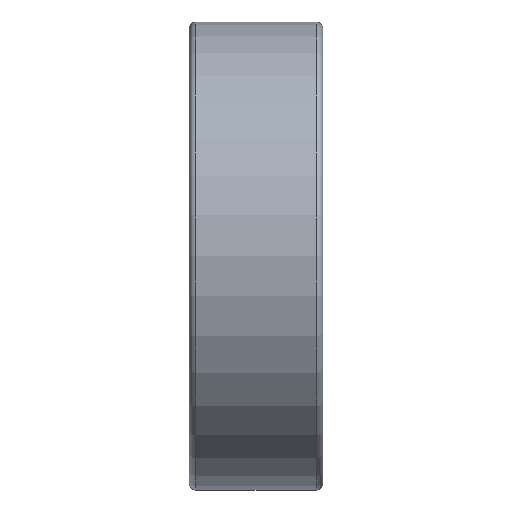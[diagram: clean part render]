
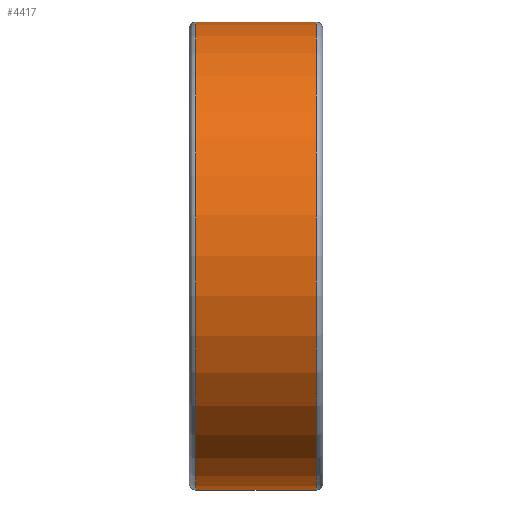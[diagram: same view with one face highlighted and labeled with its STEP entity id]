
A CAD part, top view. The second image highlights one B-rep face of the part: STEP entity #4417.
In plain terms, the highlighted cylindrical face has radius 21 mm (diameter 42 mm), a partial arc.
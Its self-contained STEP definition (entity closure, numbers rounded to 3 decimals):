
#159 = AXIS2_PLACEMENT_3D ( 'NONE', #1102, #1105, #1099 ) ;
#654 = CARTESIAN_POINT ( 'NONE',  ( -11.4, -21., 0. ) ) ;
#664 = CARTESIAN_POINT ( 'NONE',  ( -11.4, 21., 0. ) ) ;
#671 = CARTESIAN_POINT ( 'NONE',  ( -0.6, 21., 0. ) ) ;
#672 = CARTESIAN_POINT ( 'NONE',  ( -0.6, -21., 0. ) ) ;
#894 = CIRCLE ( 'NONE', #904, 21. ) ;
#900 = VECTOR ( 'NONE', #2618, 1000. ) ;
#902 = VECTOR ( 'NONE', #2627, 1000. ) ;
#903 = CIRCLE ( 'NONE', #906, 21. ) ;
#904 = AXIS2_PLACEMENT_3D ( 'NONE', #2620, #2621, #2622 ) ;
#906 = AXIS2_PLACEMENT_3D ( 'NONE', #2624, #2625, #2626 ) ;
#1099 = DIRECTION ( 'NONE',  ( 0., 1., 0. ) ) ;
#1100 = CYLINDRICAL_SURFACE ( 'NONE', #159, 21. ) ;
#1102 = CARTESIAN_POINT ( 'NONE',  ( 0., 0., 0. ) ) ;
#1104 = FACE_OUTER_BOUND ( 'NONE', #5566, .T. ) ;
#1105 = DIRECTION ( 'NONE',  ( 1., 0., 0. ) ) ;
#2609 = LINE ( 'NONE', #2610, #900 ) ;
#2610 = CARTESIAN_POINT ( 'NONE',  ( 0., -21., 0. ) ) ;
#2618 = DIRECTION ( 'NONE',  ( 1., 0., 0. ) ) ;
#2619 = CARTESIAN_POINT ( 'NONE',  ( 0., 21., 0. ) ) ;
#2620 = CARTESIAN_POINT ( 'NONE',  ( -11.4, 0., 0. ) ) ;
#2621 = DIRECTION ( 'NONE',  ( 1., 0., 0. ) ) ;
#2622 = DIRECTION ( 'NONE',  ( 0., 1., 0. ) ) ;
#2623 = LINE ( 'NONE', #2619, #902 ) ;
#2624 = CARTESIAN_POINT ( 'NONE',  ( -0.6, 0., 0. ) ) ;
#2625 = DIRECTION ( 'NONE',  ( 1., 0., 0. ) ) ;
#2626 = DIRECTION ( 'NONE',  ( 0., 1., 0. ) ) ;
#2627 = DIRECTION ( 'NONE',  ( 1., 0., 0. ) ) ;
#4417 = ADVANCED_FACE ( 'NONE', ( #1104 ), #1100, .T. ) ;
#5153 = EDGE_CURVE ( 'NONE', #6237, #6255, #2609, .T. ) ;
#5154 = EDGE_CURVE ( 'NONE', #6247, #6237, #894, .T. ) ;
#5155 = EDGE_CURVE ( 'NONE', #6254, #6255, #903, .T. ) ;
#5156 = EDGE_CURVE ( 'NONE', #6247, #6254, #2623, .T. ) ;
#5467 = ORIENTED_EDGE ( 'NONE', *, *, #5154, .T. ) ;
#5468 = ORIENTED_EDGE ( 'NONE', *, *, #5153, .T. ) ;
#5469 = ORIENTED_EDGE ( 'NONE', *, *, #5155, .F. ) ;
#5470 = ORIENTED_EDGE ( 'NONE', *, *, #5156, .F. ) ;
#5566 = EDGE_LOOP ( 'NONE', ( #5467, #5468, #5469, #5470 ) ) ;
#6237 = VERTEX_POINT ( 'NONE', #654 ) ;
#6247 = VERTEX_POINT ( 'NONE', #664 ) ;
#6254 = VERTEX_POINT ( 'NONE', #671 ) ;
#6255 = VERTEX_POINT ( 'NONE', #672 ) ;
